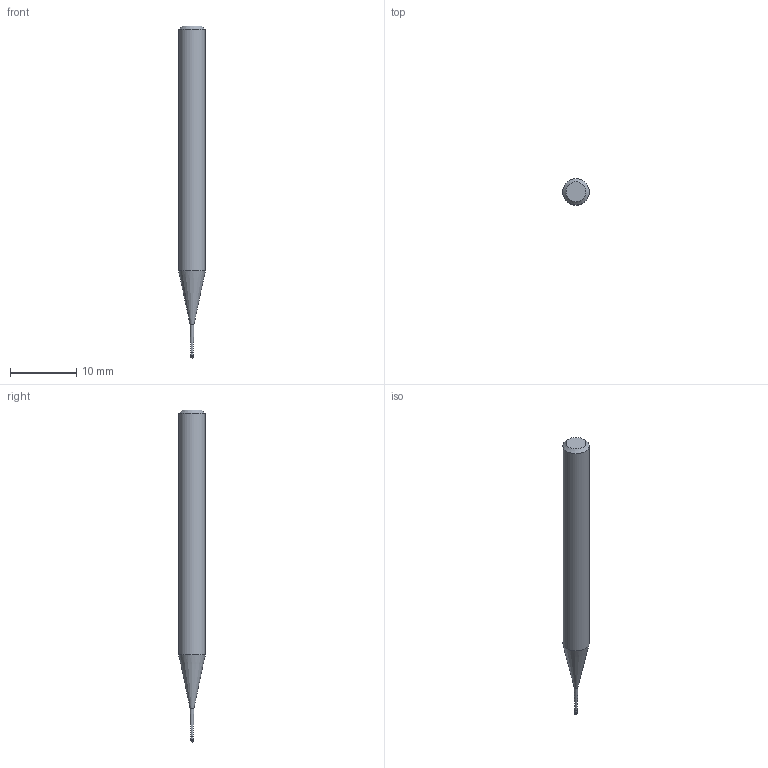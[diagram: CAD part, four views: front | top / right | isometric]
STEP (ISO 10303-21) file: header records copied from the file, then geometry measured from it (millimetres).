
FILE_DESCRIPTION((''),'2;1');
FILE_NAME('C:\Users\nsx150\AppData\Local\Temp\Mastercam 2021\SNAKH10GOD\TEMP.step','2021-10-21T13:30:57',(''),(''),'STEP Write','Mastercam 2021 ... CNC Software, Inc.','');
FILE_SCHEMA(('AUTOMOTIVE_DESIGN'));
Length unit declared in the file: millimetre
Products named in the file (1): None
Bounding box: 4 x 4 x 50 mm (x, y, z)
Volume: 502.2 mm3; surface area: 538.8 mm2
Topology: 2 solids, 2 shells, 10 faces, 16 edges, 9 vertices
Faces by surface type: plane 3, cylinder 3, cone 3, sphere 1
Full cylindrical faces by diameter (mm): 0.395 x1, 0.4 x1, 4 x1
Entity records: 232 total; most frequent: DIRECTION 40, CARTESIAN_POINT 28, AXIS2_PLACEMENT_3D 20, ORIENTED_EDGE 16, EDGE_LOOP 16, STYLED_ITEM 13, ADVANCED_FACE 10, FACE_BOUND 9
